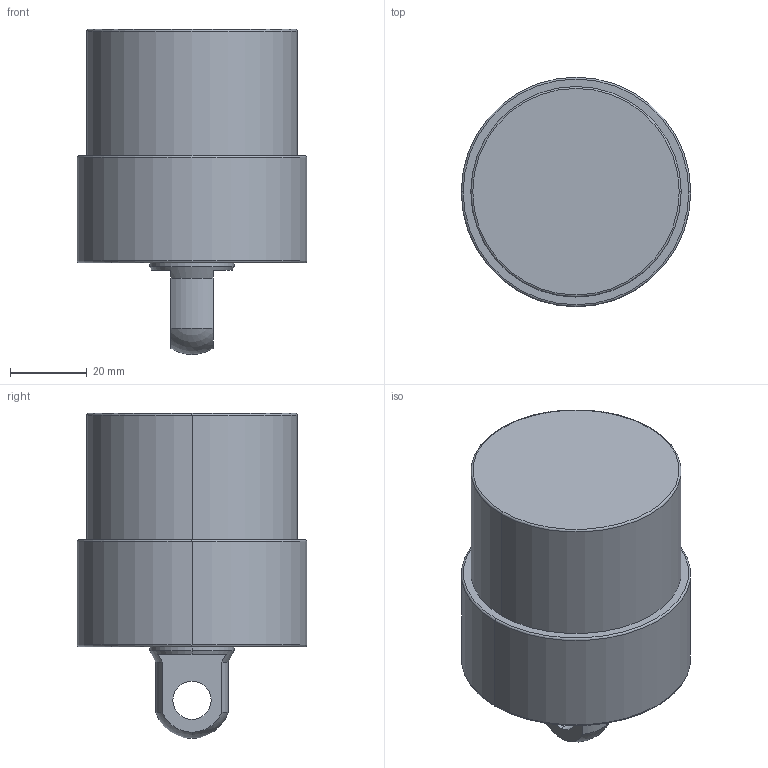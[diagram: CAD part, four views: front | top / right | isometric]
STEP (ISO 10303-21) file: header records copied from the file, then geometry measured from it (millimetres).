
FILE_DESCRIPTION (( 'STEP AP203' ), '1' );
FILE_NAME ('CLLU055-CP-020.STEP', '2017-05-12T10:42:07', ( '' ), ( '' ), 'SwSTEP 2.0', 'SolidWorks 2015', '' );
FILE_SCHEMA (( 'CONFIG_CONTROL_DESIGN' ));
Length unit declared in the file: millimetre
Products named in the file (1): CLLU055-CP-020
Bounding box: 60 x 60 x 85 mm (x, y, z)
Volume: 159799.8 mm3; surface area: 18955.7 mm2
Topology: 1 solids, 1 shells, 57 faces, 130 edges, 75 vertices
Faces by surface type: cylinder 22, cone 18, plane 9, torus 6, sphere 2
Entity records: 1643 total; most frequent: DIRECTION 308, CARTESIAN_POINT 267, ORIENTED_EDGE 244, AXIS2_PLACEMENT_3D 132, EDGE_CURVE 122, VERTEX_POINT 75, CIRCLE 74, EDGE_LOOP 67
